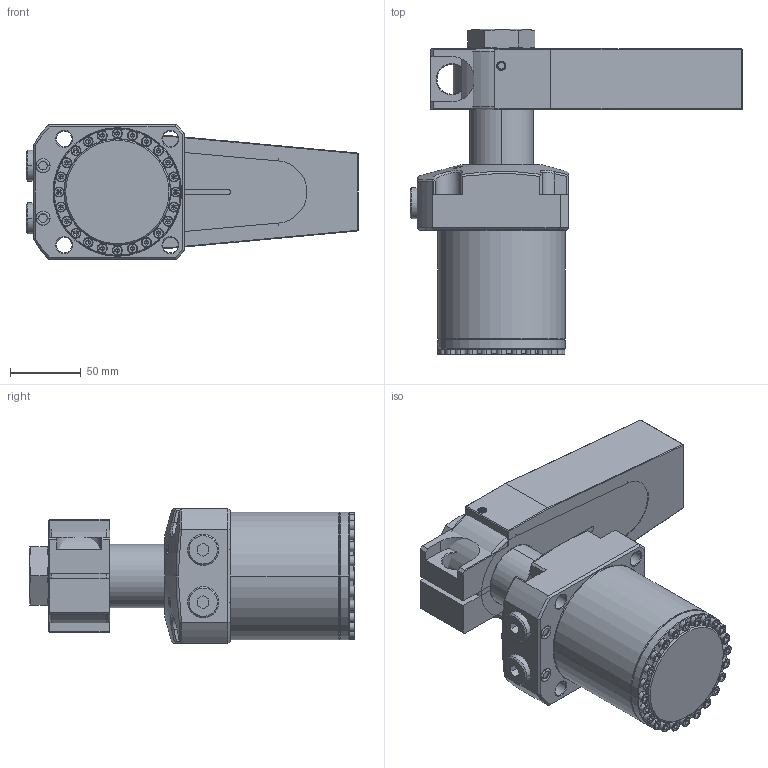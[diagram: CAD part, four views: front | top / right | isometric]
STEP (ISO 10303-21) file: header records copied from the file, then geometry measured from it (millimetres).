
FILE_DESCRIPTION((''),'2;1');
FILE_NAME('SIMP_GENERIC_SWING_CYD_90_ASM','2023-04-16T11:34:48',('Design 2'),(''),'CREO PARAMETRIC BY PTC INC, 2020053','CREO PARAMETRIC BY PTC INC, 2020053','');
FILE_SCHEMA(('CONFIG_CONTROL_DESIGN'));
Length unit declared in the file: millimetre
Products named in the file (16): BODY__; BODY_TOP_FLG___ASM; PISTON__; PISTON_ASM___ASM; SWINGER_ARM__; SWINGER_ARM_ASM___ASM; CLAMP__; HEXAGON_NUT__; CLAMP_2ND_TYPE__; 1_____; 2_____; HALDER_SEALING-PLUG-228800_SS__ASM; ISHCS04X10; STATIC-O-RING-10X2SS__; G-3-8_CLOSE_PLUG; SIMP_GENERIC_SWING_CYD_90_ASM
Assembly tree (41 placements, depth 3):
  SIMP_GENERIC_SWING_CYD_90_ASM
    BODY_TOP_FLG___ASM
      BODY__
    PISTON_ASM___ASM
      PISTON__
    SWINGER_ARM_ASM___ASM
      SWINGER_ARM__
    CLAMP__
    HEXAGON_NUT__
    CLAMP_2ND_TYPE__
    HALDER_SEALING-PLUG-228800_SS__ASM  x2
      1_____
      2_____
    ISHCS04X10  x24
    STATIC-O-RING-10X2SS__  x2
    G-3-8_CLOSE_PLUG  x2
Bounding box: 234.5 x 230.15 x 95 mm (x, y, z)
Volume: 1858790.6 mm3; surface area: 249820.3 mm2
Topology: 38 solids, 38 shells, 1554 faces, 3455 edges, 2001 vertices
Faces by surface type: plane 526, cylinder 482, cone 420, torus 72, bspline 48, sphere 6
Entity records: 28456 total; most frequent: CARTESIAN_POINT 10942, DIRECTION 3640, ORIENTED_EDGE 3484, EDGE_CURVE 1742, AXIS2_PLACEMENT_3D 1406, VERTEX_POINT 1050, EDGE_LOOP 864, VECTOR 828
